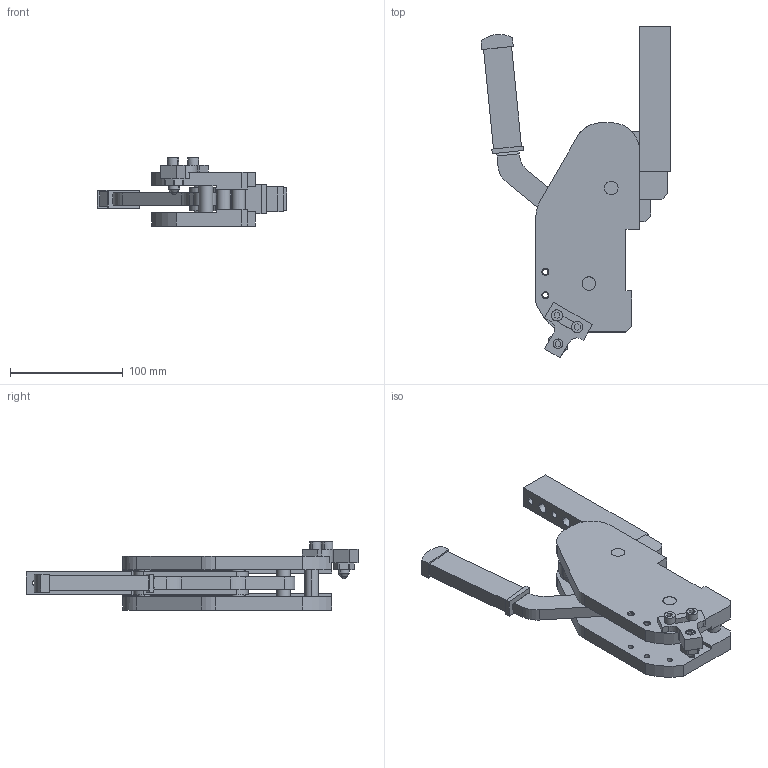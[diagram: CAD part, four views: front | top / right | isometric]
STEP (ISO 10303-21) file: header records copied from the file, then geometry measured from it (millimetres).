
FILE_DESCRIPTION (( 'STEP AP214' ), '1' );
FILE_NAME ('mc_o2c_ld.STEP', '2014-03-17T09:15:52', ( 'vep' ), ( 'TOSHIBA' ), 'SwSTEP 2.0', 'SolidWorks 2013', '' );
FILE_SCHEMA (( 'AUTOMOTIVE_DESIGN' ));
Length unit declared in the file: millimetre
Products named in the file (7): mc_o2c_ld; gruppo_montante_mc; leva_mc; biella_leva_mc_; biella_mc; staffa_fermo_leva_mc; leva_v2c_o2c_mc
Assembly tree (7 placements, depth 2):
  mc_o2c_ld
    gruppo_montante_mc
    leva_mc
    biella_leva_mc_
    biella_mc  x2
    staffa_fermo_leva_mc
    leva_v2c_o2c_mc
Bounding box: 168.82 x 295.12 x 60.7 mm (x, y, z)
Volume: 594057.9 mm3; surface area: 146171.3 mm2
Topology: 7 solids, 7 shells, 388 faces, 985 edges, 621 vertices
Faces by surface type: plane 177, cylinder 151, cone 58, sphere 2
Entity records: 12188 total; most frequent: DIRECTION 2022, CARTESIAN_POINT 1900, ORIENTED_EDGE 1844, EDGE_CURVE 922, AXIS2_PLACEMENT_3D 717, VERTEX_POINT 595, LINE 588, VECTOR 588
